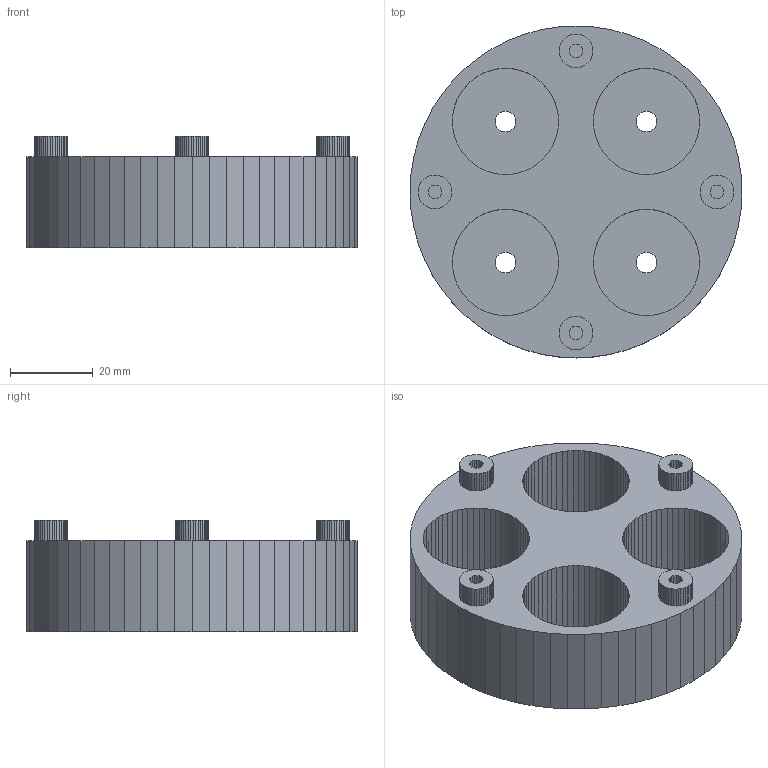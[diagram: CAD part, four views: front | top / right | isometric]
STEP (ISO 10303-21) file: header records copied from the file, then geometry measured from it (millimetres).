
FILE_DESCRIPTION(('Open CASCADE Model'),'2;1');
FILE_NAME('Open CASCADE Shape Model','2026-08-07T13:51:20',('Author'),( 'Open CASCADE'),'Open CASCADE STEP processor 7.9','Open CASCADE 7.9' ,'Unknown');
FILE_SCHEMA(('AUTOMOTIVE_DESIGN { 1 0 10303 214 1 1 1 1 }'));
Length unit declared in the file: millimetre
Products named in the file (1): 電磁鐵座(理香機構)
Bounding box: 80 x 80 x 27 mm (x, y, z)
Volume: 69983.5 mm3; surface area: 22677 mm2
Topology: 1 solids, 1 shells, 666 faces, 1956 edges, 1304 vertices
Faces by surface type: plane 666
Entity records: 47114 total; most frequent: CARTESIAN_POINT 7839, DIRECTION 7202, LINE 5868, VECTOR 5868, ORIENTED_EDGE 3912, PCURVE 3912, DEFINITIONAL_REPRESENTATION 3912, EDGE_CURVE 1956
